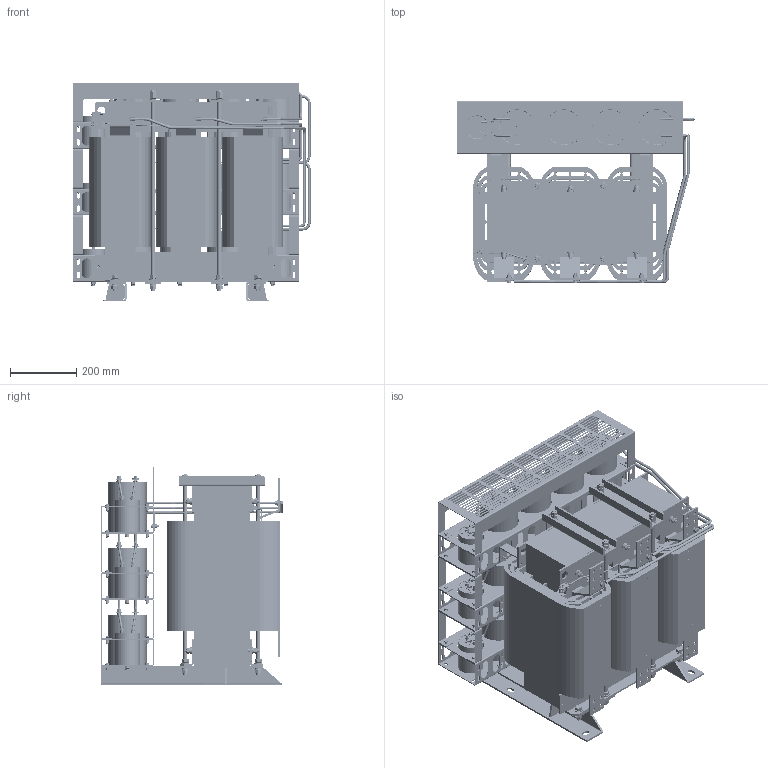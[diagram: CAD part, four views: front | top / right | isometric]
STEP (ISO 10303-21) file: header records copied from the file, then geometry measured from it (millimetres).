
FILE_DESCRIPTION(('STEP AP203'), '1');
FILE_NAME('蔓躅漤铋 耔眢耥 翳朦蝠 _ ISINOF-450_530-6', '', ('UNSPECIFIED'), ('UNSPECIFIED'), 'C3D Converter', 'C3D Toolkit', '');
FILE_SCHEMA(('CONFIG_CONTROL_DESIGN'));
Length unit declared in the file: millimetre
Products named in the file (9): ISINOF-450/530-6; ХэПТІЁВЛІЁЖчSKS-SF-0530-6AЈЇ05 -РВ; З豹X2\041F0412045804200458044E\X0\-490-90-40+6mm-跚X2\040104260416\X0\; 琵X2\0428\X0\崤X2\043A\X0\-3捷; 琵X2\0458041F042F\X0\-1; 琵X2\0458041F042F\X0\-3; 琵X2\0458041F042F\X0\-2; L1-L2-L3-200(2ｱｶЈｩ; L1''-L2''-L3''-200ЈЁ2±¶Ј©
Assembly tree (8 placements, depth 2):
  ISINOF-450/530-6
    ХэПТІЁВЛІЁЖчSKS-SF-0530-6AЈЇ05 -РВ
    З豹X2\041F0412045804200458044E\X0\-490-90-40+6mm-跚X2\040104260416\X0\
    琵X2\0428\X0\崤X2\043A\X0\-3捷
    琵X2\0458041F042F\X0\-1
    琵X2\0458041F042F\X0\-3
    琵X2\0458041F042F\X0\-2
    L1-L2-L3-200(2ｱｶЈｩ
    L1''-L2''-L3''-200ЈЁ2±¶Ј©
Bounding box: 714.75 x 550.21 x 660 mm (x, y, z)
Volume: 91237598.5 mm3; surface area: 12663508.4 mm2
Topology: 613 solids, 613 shells, 7979 faces, 18658 edges, 12084 vertices
Faces by surface type: plane 4495, cylinder 2248, cone 906, bspline 254, torus 76
Full cylindrical faces by diameter (mm): 2 x12, 3 x2, 3.8 x2, 4 x8, 4.875 x12, 5 x36, 5.053 x20, 6 x76, 6.375 x18, 6.45 x20, 6.5 x87, 6.737 x18, 7 x6, 8 x5, 8.422 x12, 8.5 x34, 8.667 x21, 9.125 x4, 9.55 x20, 10 x45, 10.106 x20, 10.667 x3, 10.75 x12, 10.833 x24, 11 x28, 12 x140, 12.9 x12, 13 x35, 14 x5, 15.917 x12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
Entity records: 383665 total; most frequent: CARTESIAN_POINT 136803, DIRECTION 35708, ORIENTED_EDGE 34552, EDGE_CURVE 17276, AXIS2_PLACEMENT_3D 13668, VERTEX_POINT 12082, EDGE_LOOP 10892, FACE_BOUND 8929
